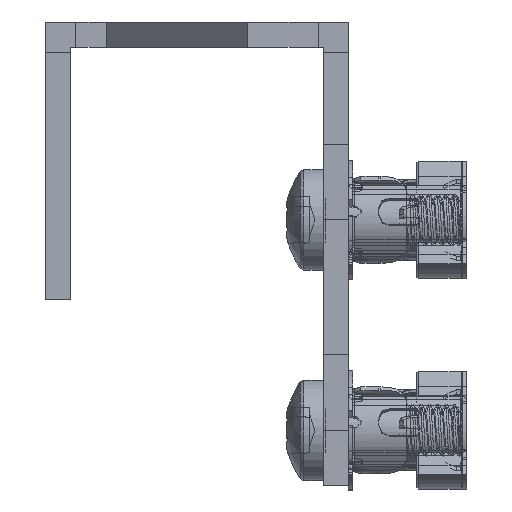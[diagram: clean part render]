
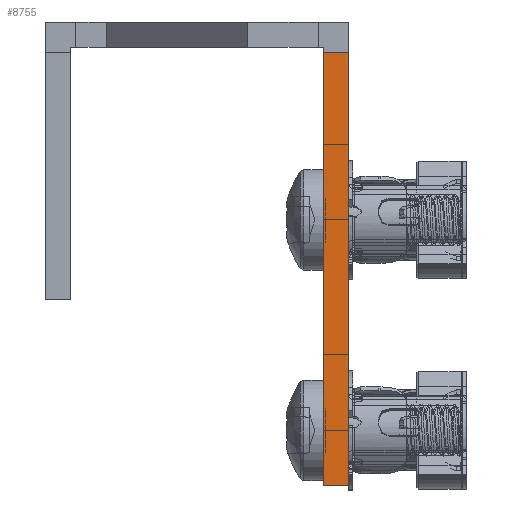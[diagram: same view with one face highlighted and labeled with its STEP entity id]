
A CAD part, left-side view. The second image highlights one B-rep face of the part: STEP entity #8755.
In plain terms, the highlighted planar face has unit normal (-1, 0, 0) as drawn and (1, 0, 0) by its records, which use the part's own axes.
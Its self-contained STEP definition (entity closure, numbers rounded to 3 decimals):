
#8728 = VERTEX_POINT('',#8729);
#8729 = CARTESIAN_POINT('',(770.,12.9,-33.));
#8735 = EDGE_CURVE('',#8728,#8736,#8738,.T.);
#8736 = VERTEX_POINT('',#8737);
#8737 = CARTESIAN_POINT('',(770.,12.9,-36.));
#8738 = LINE('',#8739,#8740);
#8739 = CARTESIAN_POINT('',(770.,12.9,-33.));
#8740 = VECTOR('',#8741,1.);
#8741 = DIRECTION('',(0.,0.,-1.));
#8755 = ADVANCED_FACE('',(#8756),#8781,.T.);
#8756 = FACE_BOUND('',#8757,.T.);
#8757 = EDGE_LOOP('',(#8758,#8766,#8767,#8775));
#8758 = ORIENTED_EDGE('',*,*,#8759,.T.);
#8759 = EDGE_CURVE('',#8760,#8736,#8762,.T.);
#8760 = VERTEX_POINT('',#8761);
#8761 = CARTESIAN_POINT('',(770.,-38.5,-36.));
#8762 = LINE('',#8763,#8764);
#8763 = CARTESIAN_POINT('',(770.,13.5,-36.));
#8764 = VECTOR('',#8765,1.);
#8765 = DIRECTION('',(-0.,1.,0.));
#8766 = ORIENTED_EDGE('',*,*,#8735,.F.);
#8767 = ORIENTED_EDGE('',*,*,#8768,.F.);
#8768 = EDGE_CURVE('',#8769,#8728,#8771,.T.);
#8769 = VERTEX_POINT('',#8770);
#8770 = CARTESIAN_POINT('',(770.,-38.5,-33.));
#8771 = LINE('',#8772,#8773);
#8772 = CARTESIAN_POINT('',(770.,0.,-33.));
#8773 = VECTOR('',#8774,1.);
#8774 = DIRECTION('',(-0.,1.,0.));
#8775 = ORIENTED_EDGE('',*,*,#8776,.F.);
#8776 = EDGE_CURVE('',#8760,#8769,#8777,.T.);
#8777 = LINE('',#8778,#8779);
#8778 = CARTESIAN_POINT('',(770.,-38.5,-36.));
#8779 = VECTOR('',#8780,1.);
#8780 = DIRECTION('',(0.,0.,1.));
#8781 = PLANE('',#8782);
#8782 = AXIS2_PLACEMENT_3D('',#8783,#8784,#8785);
#8783 = CARTESIAN_POINT('',(770.,13.5,-36.));
#8784 = DIRECTION('',(1.,0.,0.));
#8785 = DIRECTION('',(0.,0.,-1.));
